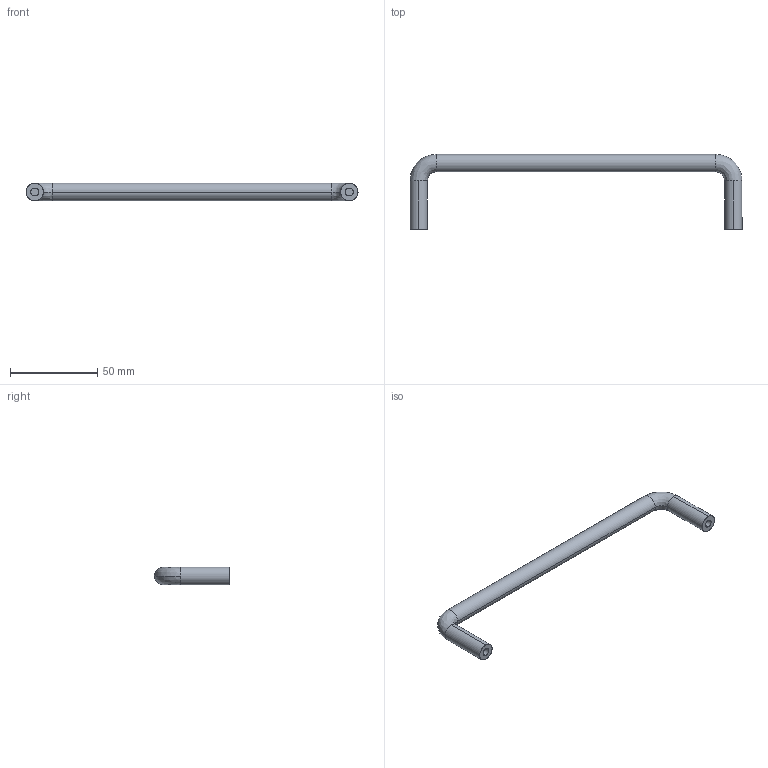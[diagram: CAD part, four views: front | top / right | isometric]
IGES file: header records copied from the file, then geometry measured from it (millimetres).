
Start section: SolidWorks IGES file using analytic representation for surfaces
Global section: file name: D:\由鑫國際內部資料\內部資料\3D圖檔\MS-742系列\742-180.IGS; native system: SolidWorks 2008; preprocessor: SolidWorks 2008; author: Administrator; date: 091201.131814; units: millimetre
Bounding box: 190 x 43 x 10 mm (x, y, z)
Surface area: 8270 mm2 (no closed solid volume)
Topology: 0 solids, 0 shells, 18 faces, 256 edges, 256 vertices
Faces by surface type: revolution 10, bspline 8
